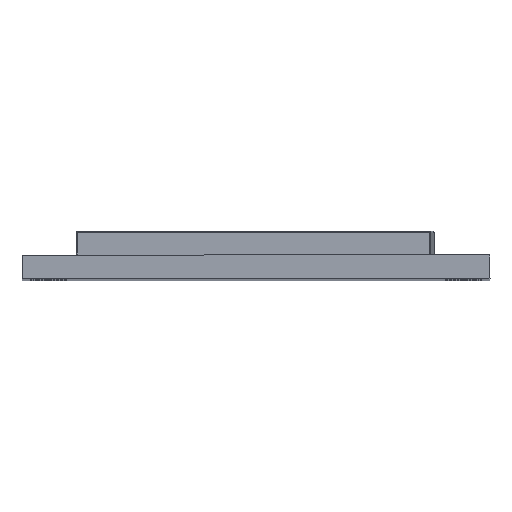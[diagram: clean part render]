
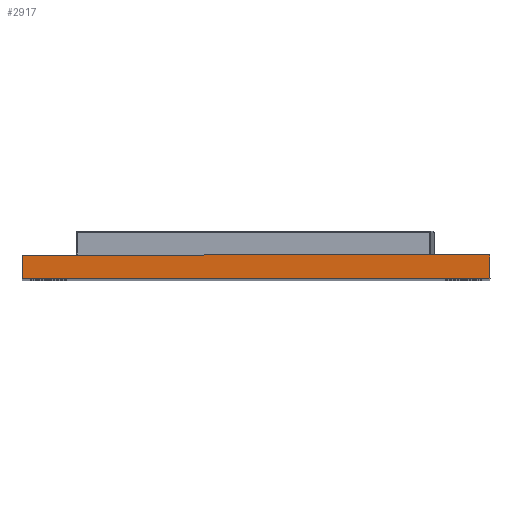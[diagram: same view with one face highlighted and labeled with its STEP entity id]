
A CAD part, top view. The second image highlights one B-rep face of the part: STEP entity #2917.
In plain terms, the highlighted planar face has unit normal (-0.07, 0, 0.998).
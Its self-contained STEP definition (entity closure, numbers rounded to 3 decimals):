
#179 = FACE_OUTER_BOUND ( 'NONE', #6128, .T. ) ;
#786 = CARTESIAN_POINT ( 'NONE',  ( -0.082, 86.598, 182.447 ) ) ;
#815 = AXIS2_PLACEMENT_3D ( 'NONE', #5839, #5030, #9933 ) ;
#1022 = VERTEX_POINT ( 'NONE', #5535 ) ;
#1381 = VECTOR ( 'NONE', #9000, 1000. ) ;
#1875 = LINE ( 'NONE', #9869, #1381 ) ;
#1991 = VERTEX_POINT ( 'NONE', #7796 ) ;
#2228 = CARTESIAN_POINT ( 'NONE',  ( -0.082, 82.598, 182.447 ) ) ;
#2663 = PLANE ( 'NONE',  #815 ) ;
#2754 = CARTESIAN_POINT ( 'NONE',  ( 78.918, 82.598, 187.971 ) ) ;
#2903 = VECTOR ( 'NONE', #7702, 1000. ) ;
#2917 = ADVANCED_FACE ( 'NONE', ( #179 ), #2663, .T. ) ;
#2931 = DIRECTION ( 'NONE',  ( 0., 1., 0. ) ) ;
#2965 = VERTEX_POINT ( 'NONE', #786 ) ;
#3247 = EDGE_CURVE ( 'NONE', #1991, #2965, #3792, .T. ) ;
#3347 = ORIENTED_EDGE ( 'NONE', *, *, #3866, .F. ) ;
#3730 = VECTOR ( 'NONE', #2931, 1000. ) ;
#3792 = LINE ( 'NONE', #2228, #3730 ) ;
#3866 = EDGE_CURVE ( 'NONE', #5069, #1022, #6223, .T. ) ;
#3889 = ORIENTED_EDGE ( 'NONE', *, *, #4120, .T. ) ;
#4120 = EDGE_CURVE ( 'NONE', #5069, #2965, #1875, .T. ) ;
#4224 = ORIENTED_EDGE ( 'NONE', *, *, #3247, .F. ) ;
#4947 = VECTOR ( 'NONE', #5190, 1000. ) ;
#5030 = DIRECTION ( 'NONE',  ( -0.07, 0., 0.998 ) ) ;
#5069 = VERTEX_POINT ( 'NONE', #6098 ) ;
#5190 = DIRECTION ( 'NONE',  ( 0., -1., 0. ) ) ;
#5498 = EDGE_CURVE ( 'NONE', #1022, #1991, #10119, .T. ) ;
#5535 = CARTESIAN_POINT ( 'NONE',  ( 78.918, 82.598, 187.971 ) ) ;
#5839 = CARTESIAN_POINT ( 'NONE',  ( 79.418, 86.598, 188.006 ) ) ;
#6098 = CARTESIAN_POINT ( 'NONE',  ( 78.918, 86.598, 187.971 ) ) ;
#6128 = EDGE_LOOP ( 'NONE', ( #9923, #3347, #3889, #4224 ) ) ;
#6223 = LINE ( 'NONE', #9448, #4947 ) ;
#7702 = DIRECTION ( 'NONE',  ( -0.998, 0., -0.07 ) ) ;
#7796 = CARTESIAN_POINT ( 'NONE',  ( -0.082, 82.598, 182.447 ) ) ;
#9000 = DIRECTION ( 'NONE',  ( -0.998, 0., -0.07 ) ) ;
#9448 = CARTESIAN_POINT ( 'NONE',  ( 78.918, 82.598, 187.971 ) ) ;
#9869 = CARTESIAN_POINT ( 'NONE',  ( 79.418, 86.598, 188.006 ) ) ;
#9923 = ORIENTED_EDGE ( 'NONE', *, *, #5498, .F. ) ;
#9933 = DIRECTION ( 'NONE',  ( 0., 1., 0. ) ) ;
#10119 = LINE ( 'NONE', #2754, #2903 ) ;
